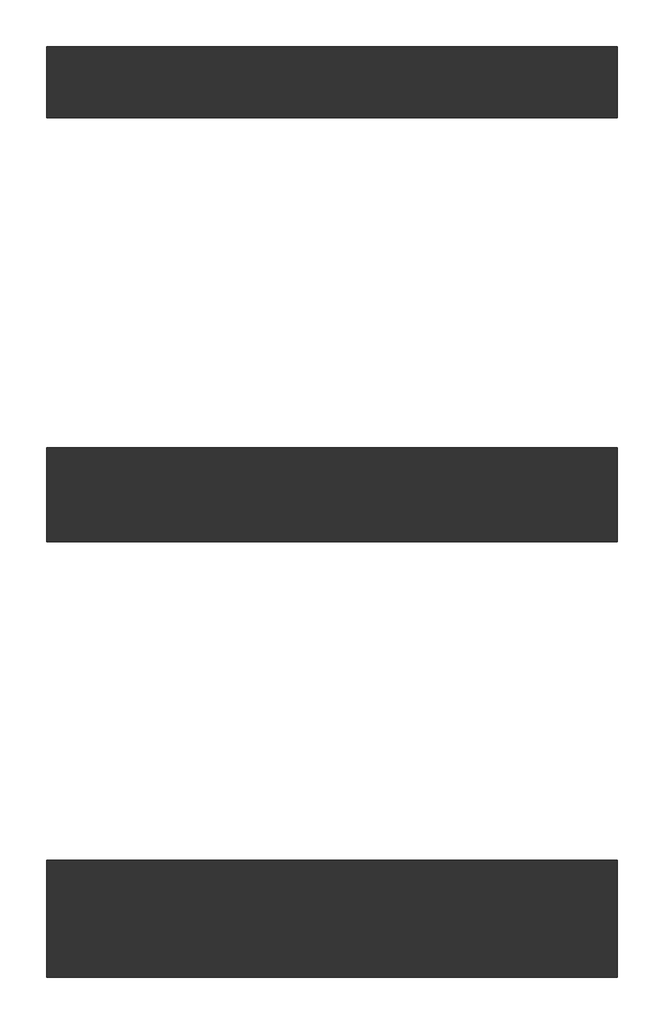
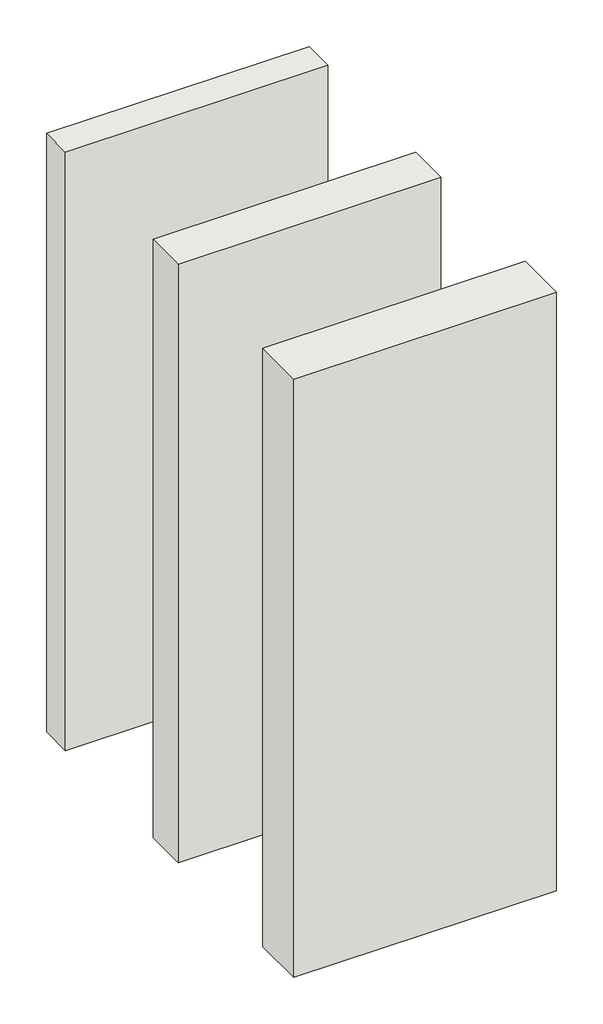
# One storey: 3 walls.
"""IFC4 building model written with IfcOpenShell, lengths in millimetres."""

import ifcopenshell
import ifcopenshell.guid

model = None  # the IFC model being written
_history = None  # IfcOwnerHistory: only IFC2X3 demands one
_inside = {}  # id of a spatial element -> (the spatial element, [elements in it])
_under = {}  # id of a project, library or spatial element -> (it, [spatial elements below it])
_declared = {}  # id of a project -> (the project, [libraries it declares])
_typed = {}  # id of a type object -> (the type object, [elements of that type])
_made_of = {}  # id of a material, layer set ... -> (it, [elements and type objects made of it])


def new_model(schema):
    """Start an empty IFC model of exactly this schema.

    Asked for "IFC4X3", IfcOpenShell would pick the latest addendum, in which some entities
    have other attributes; the version numbers below select the first issue.
    IFC2X3 requires an IfcOwnerHistory on every rooted entity: one is made here for all.
    """
    global model, _history
    if schema == "IFC4X3":
        model = ifcopenshell.file(schema_version=(4, 3, 0, 0))
    else:
        model = ifcopenshell.file(schema=schema)
    _inside.clear()
    _under.clear()
    _declared.clear()
    _typed.clear()
    _made_of.clear()
    _history = None
    if model.schema == "IFC2X3":
        org = make("IfcOrganization", Name="unknown")
        user = make(
            "IfcPersonAndOrganization",
            ThePerson=make("IfcPerson", FamilyName="unknown"),
            TheOrganization=org,
        )
        app = make(
            "IfcApplication",
            ApplicationDeveloper=org,
            Version="unknown",
            ApplicationFullName="unknown",
            ApplicationIdentifier="unknown",
        )
        _history = make(
            "IfcOwnerHistory",
            OwningUser=user,
            OwningApplication=app,
            ChangeAction="ADDED",
            CreationDate=0,
        )
    return model


def make(cls, **values):
    """One entity of the class cls with the attributes given. An attribute that is None is left unset."""
    return model.create_entity(
        cls, **{name: value for name, value in values.items() if value is not None}
    )


def rooted(cls, **values):
    """An entity with a GlobalId (a new one), such as an element, a storey or a relation."""
    return make(cls, GlobalId=ifcopenshell.guid.new(), OwnerHistory=_history, **values)


def si_unit(unit_type, name, prefix=None):
    """IfcSIUnit, for example si_unit("LENGTHUNIT", "METRE", prefix="MILLI")."""
    return make("IfcSIUnit", UnitType=unit_type, Prefix=prefix, Name=name)


def assignment(units):
    """IfcUnitAssignment: the units of a project."""
    return None if units is None else make("IfcUnitAssignment", Units=units)


def point(xyz):
    """IfcCartesianPoint."""
    return None if xyz is None else make("IfcCartesianPoint", Coordinates=xyz)


def direction(xyz):
    """IfcDirection."""
    return None if xyz is None else make("IfcDirection", DirectionRatios=xyz)


def frame(location, z_axis=None, x_axis=None):
    """IfcAxis2Placement3D, a coordinate frame: its origin and axes. An axis left out is left unset."""
    return make(
        "IfcAxis2Placement3D",
        Location=point(location),
        Axis=direction(z_axis),
        RefDirection=direction(x_axis),
    )


def origin():
    """The frame at (0, 0, 0) with its axes left unset."""
    return frame((0.0, 0.0, 0.0))


def origin_with_axes():
    """The frame at (0, 0, 0) with the z axis (0, 0, 1) and the x axis (1, 0, 0) written out."""
    return frame((0.0, 0.0, 0.0), z_axis=(0.0, 0.0, 1.0), x_axis=(1.0, 0.0, 0.0))


def place(relative_to, where):
    """IfcLocalPlacement: puts the frame where relative to a parent placement (None: the world)."""
    return make(
        "IfcLocalPlacement", PlacementRelTo=relative_to, RelativePlacement=where
    )


def context(
    kind, dimensions, precision=None, world=None, true_north=None, identifier=None
):
    """IfcGeometricRepresentationContext, for example the 3D "Model" context."""
    return make(
        "IfcGeometricRepresentationContext",
        ContextIdentifier=identifier,
        ContextType=kind,
        CoordinateSpaceDimension=dimensions,
        Precision=precision,
        WorldCoordinateSystem=world,
        TrueNorth=true_north,
    )


def project(units=None, contexts=None):
    """IfcProject with its units and contexts."""
    return rooted(
        "IfcProject",
        Name="project",
        RepresentationContexts=contexts,
        UnitsInContext=assignment(units),
    )


def spatial(cls, under=None, at=None, **own):
    """A site, building, storey or space (cls), placed at a placement, below another one or the project."""
    s = rooted(cls, ObjectPlacement=at, **own)
    if under is not None:
        _under.setdefault(under.id(), (under, []))[1].append(s)
    return s


def polyline(points):
    """IfcPolyline through the points."""
    return make("IfcPolyline", Points=[point(p) for p in points])


def outline(outer, holes=None, kind="AREA"):
    """IfcArbitraryClosedProfileDef: a profile drawn as a closed curve; with holes, ...WithVoids."""
    if holes is None:
        return make("IfcArbitraryClosedProfileDef", ProfileType=kind, OuterCurve=outer)
    return make(
        "IfcArbitraryProfileDefWithVoids",
        ProfileType=kind,
        OuterCurve=outer,
        InnerCurves=holes,
    )


def extrude(swept, where, along, depth):
    """IfcExtrudedAreaSolid: the profile swept, set in the frame where, extruded along a direction by depth."""
    return make(
        "IfcExtrudedAreaSolid",
        SweptArea=swept,
        Position=where,
        ExtrudedDirection=direction(along),
        Depth=depth,
    )


def shape(context_of_items, identifier, shape_type, items):
    """IfcShapeRepresentation: the items that make up one representation, for example the "Body"."""
    return make(
        "IfcShapeRepresentation",
        ContextOfItems=context_of_items,
        RepresentationIdentifier=identifier,
        RepresentationType=shape_type,
        Items=items,
    )


def made_of(thing, what):
    """Note that an element or type object is made of a material, layer set ...; save() writes the relation."""
    if what is not None:
        _made_of.setdefault(what.id(), (what, []))[1].append(thing)
    return thing


def element(
    cls,
    number,
    at=None,
    inside=None,
    cuts=None,
    type_object=None,
    material=None,
    context=None,
    identifier="Body",
    shape_type=None,
    held_by="IfcProductDefinitionShape",
    body=None,
    shapes=None,
    **own,
):
    """One element of the class cls, such as IfcWall. Its Tag is "e" and its number.

    at: its placement. inside: the storey or other place that contains it. cuts: it is an
    opening in that element (IfcRelVoidsElement). A single representation is given by context,
    identifier, shape_type and body (its items); several are given by shapes. held_by: the class
    of the entity that holds the representations. save() writes the other relations.
    """
    e = rooted(cls, Tag="e%d" % number, ObjectPlacement=at, **own)
    if body is not None:
        shapes = [shape(context, identifier, shape_type, body)]
    if shapes is not None:
        e.Representation = make(held_by, Representations=shapes)
    if inside is not None:
        _inside.setdefault(inside.id(), (inside, []))[1].append(e)
    if cuts is not None:
        rooted(
            "IfcRelVoidsElement", RelatingBuildingElement=cuts, RelatedOpeningElement=e
        )
    if type_object is not None:
        _typed.setdefault(type_object.id(), (type_object, []))[1].append(e)
    return made_of(e, material)


def aggregate(whole, parts):
    """IfcRelAggregates: a whole, such as a stair, and the parts it consists of."""
    return rooted("IfcRelAggregates", RelatingObject=whole, RelatedObjects=parts)


def save(model, path):
    """Write the relations noted so far, then the file.

    IfcRelAggregates (storeys below a building ...), IfcRelContainedInSpatialStructure (elements
    in a storey), IfcRelDefinesByType, IfcRelAssociatesMaterial and IfcRelDeclares: one each for
    every whole, place, type object, material and project.
    """
    for whole, parts in _under.values():
        aggregate(whole, parts)
    for where, things in _inside.values():
        rooted(
            "IfcRelContainedInSpatialStructure",
            RelatedElements=things,
            RelatingStructure=where,
        )
    for kind, things in _typed.values():
        rooted("IfcRelDefinesByType", RelatedObjects=things, RelatingType=kind)
    for what, things in _made_of.values():
        rooted("IfcRelAssociatesMaterial", RelatedObjects=things, RelatingMaterial=what)
    for by, libraries in _declared.values():
        rooted("IfcRelDeclares", RelatingContext=by, RelatedDefinitions=libraries)
    model.write(path)


model = new_model("IFC4")

# Units and contexts
model_context = context("Model", 3, world=origin())
ifc_project = project(units=[si_unit("LENGTHUNIT", "METRE", prefix="MILLI")], contexts=[model_context])

# Site, building, storey
site = spatial("IfcSite", under=ifc_project)
building = spatial("IfcBuilding", under=site)
storey = spatial("IfcBuildingStorey", under=building, Name="Уровень 1", Elevation=0.0)

# Walls
placement = place(None, origin())
element("IfcWall", 1, ObjectType="Перегородка-КНАУФ-С385.2-Применение внутри здания-155/50@600 (Аквапанель)  12,5", at=placement, inside=storey, context=model_context, shape_type="SweptSolid", body=[
    extrude(outline(polyline([(-9315.7236634, 13441.7035262), (-10560.2640717, 13441.7035262), (-10560.2640717, 13596.7035262), (-9315.7236634, 13596.7035262), (-9315.7236634, 13441.7035262)])), origin_with_axes(), (0.0, 0.0, 1.0), 3000.0),
])
element("IfcWall", 2, ObjectType="Перегородка-КНАУФ-С385.1-Применение внутри здания-205/75@600 (Аквапанель)  12,5", at=placement, inside=storey, context=model_context, shape_type="SweptSolid", body=[
    extrude(outline(polyline([(-9315.7236634, 12516.7035262), (-10560.2640717, 12516.7035262), (-10560.2640717, 12721.7035262), (-9315.7236634, 12721.7035262), (-9315.7236634, 12516.7035262)])), origin_with_axes(), (0.0, 0.0, 1.0), 3000.0),
])
element("IfcWall", 3, ObjectType="Перегородка-КНАУФ-С385.1-Применение внутри здания-255/100@600 (Аквапанель)  12,5", at=placement, inside=storey, context=model_context, shape_type="SweptSolid", body=[
    extrude(outline(polyline([(-9315.7236634, 11566.7035262), (-10560.2640717, 11566.7035262), (-10560.2640717, 11821.7035262), (-9315.7236634, 11821.7035262), (-9315.7236634, 11566.7035262)])), origin_with_axes(), (0.0, 0.0, 1.0), 3000.0),
])

save(model, "model.ifc")
